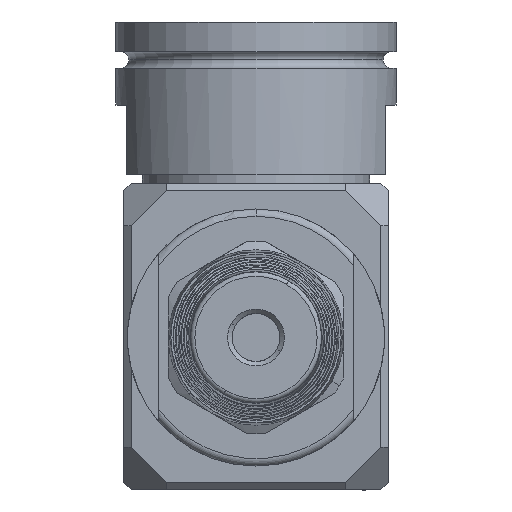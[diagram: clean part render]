
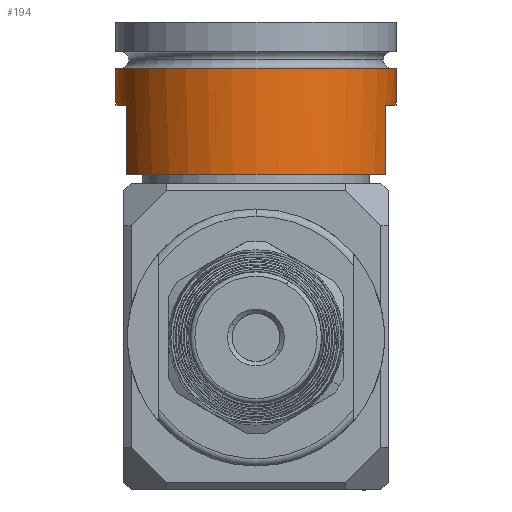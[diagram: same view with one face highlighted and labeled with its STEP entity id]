
A CAD part, front view. The second image highlights one B-rep face of the part: STEP entity #194.
In plain terms, the highlighted cylindrical face has radius 19.291 mm (diameter 38.583 mm), a partial arc.
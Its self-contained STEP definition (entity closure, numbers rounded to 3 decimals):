
#35 = VECTOR ( 'NONE', #1108, 1000. ) ;
#194 = ADVANCED_FACE ( 'NONE', ( #6642 ), #2021, .T. ) ;
#427 = ORIENTED_EDGE ( 'NONE', *, *, #6583, .T. ) ;
#482 = CARTESIAN_POINT ( 'NONE',  ( 17.78, -7.485, -2.972 ) ) ;
#692 = VECTOR ( 'NONE', #3810, 1000. ) ;
#761 = CARTESIAN_POINT ( 'NONE',  ( -19.291, 0., 2.108 ) ) ;
#835 = VERTEX_POINT ( 'NONE', #3883 ) ;
#1087 = VECTOR ( 'NONE', #8584, 1000. ) ;
#1108 = DIRECTION ( 'NONE',  ( 0., 0., -1. ) ) ;
#1285 = DIRECTION ( 'NONE',  ( 0., 0., -1. ) ) ;
#1380 = CARTESIAN_POINT ( 'NONE',  ( 19.291, 0., 8.458 ) ) ;
#1866 = AXIS2_PLACEMENT_3D ( 'NONE', #14951, #7901, #17951 ) ;
#1921 = EDGE_CURVE ( 'NONE', #12781, #5829, #9252, .T. ) ;
#2021 = CYLINDRICAL_SURFACE ( 'NONE', #16669, 19.291 ) ;
#2105 = ORIENTED_EDGE ( 'NONE', *, *, #5935, .T. ) ;
#2148 = EDGE_CURVE ( 'NONE', #9388, #10308, #4163, .T. ) ;
#3218 = AXIS2_PLACEMENT_3D ( 'NONE', #14050, #6616, #13955 ) ;
#3335 = CIRCLE ( 'NONE', #7851, 19.291 ) ;
#3352 = CARTESIAN_POINT ( 'NONE',  ( -17.78, -7.485, -12.497 ) ) ;
#3360 = AXIS2_PLACEMENT_3D ( 'NONE', #8642, #8443, #14191 ) ;
#3810 = DIRECTION ( 'NONE',  ( 0., 0., -1. ) ) ;
#3883 = CARTESIAN_POINT ( 'NONE',  ( -17.78, -7.485, -2.972 ) ) ;
#4163 = LINE ( 'NONE', #5671, #1087 ) ;
#4787 = ORIENTED_EDGE ( 'NONE', *, *, #17417, .F. ) ;
#4880 = CIRCLE ( 'NONE', #1866, 19.291 ) ;
#5013 = DIRECTION ( 'NONE',  ( 0., 0., -1. ) ) ;
#5100 = CARTESIAN_POINT ( 'NONE',  ( 17.78, -7.485, -12.497 ) ) ;
#5320 = VERTEX_POINT ( 'NONE', #11217 ) ;
#5671 = CARTESIAN_POINT ( 'NONE',  ( 17.78, -7.485, -2.972 ) ) ;
#5829 = VERTEX_POINT ( 'NONE', #14673 ) ;
#5935 = EDGE_CURVE ( 'NONE', #17279, #12781, #4880, .T. ) ;
#6583 = EDGE_CURVE ( 'NONE', #835, #7870, #15098, .T. ) ;
#6616 = DIRECTION ( 'NONE',  ( 0., 0., -1. ) ) ;
#6642 = FACE_OUTER_BOUND ( 'NONE', #18429, .T. ) ;
#6660 = ORIENTED_EDGE ( 'NONE', *, *, #1921, .T. ) ;
#7044 = DIRECTION ( 'NONE',  ( 1., 0., 0. ) ) ;
#7119 = VECTOR ( 'NONE', #5013, 1000. ) ;
#7851 = AXIS2_PLACEMENT_3D ( 'NONE', #11275, #1285, #7044 ) ;
#7855 = CARTESIAN_POINT ( 'NONE',  ( -19.291, 0., 8.458 ) ) ;
#7870 = VERTEX_POINT ( 'NONE', #3352 ) ;
#7901 = DIRECTION ( 'NONE',  ( 0., 0., -1. ) ) ;
#7902 = ORIENTED_EDGE ( 'NONE', *, *, #15863, .F. ) ;
#8148 = CARTESIAN_POINT ( 'NONE',  ( -17.78, -7.485, -2.972 ) ) ;
#8189 = CARTESIAN_POINT ( 'NONE',  ( 19.291, 0., 2.108 ) ) ;
#8354 = ORIENTED_EDGE ( 'NONE', *, *, #2148, .F. ) ;
#8443 = DIRECTION ( 'NONE',  ( 0., 0., -1. ) ) ;
#8584 = DIRECTION ( 'NONE',  ( 0., 0., -1. ) ) ;
#8642 = CARTESIAN_POINT ( 'NONE',  ( 0., 0., -2.972 ) ) ;
#9011 = ORIENTED_EDGE ( 'NONE', *, *, #12288, .F. ) ;
#9252 = LINE ( 'NONE', #7855, #7119 ) ;
#9388 = VERTEX_POINT ( 'NONE', #482 ) ;
#9671 = CIRCLE ( 'NONE', #3360, 19.291 ) ;
#10308 = VERTEX_POINT ( 'NONE', #5100 ) ;
#11217 = CARTESIAN_POINT ( 'NONE',  ( 19.291, 0., -2.972 ) ) ;
#11275 = CARTESIAN_POINT ( 'NONE',  ( 0., 0., -2.972 ) ) ;
#12288 = EDGE_CURVE ( 'NONE', #10308, #7870, #13749, .T. ) ;
#12368 = CARTESIAN_POINT ( 'NONE',  ( 0., 0., 8.458 ) ) ;
#12781 = VERTEX_POINT ( 'NONE', #761 ) ;
#13749 = CIRCLE ( 'NONE', #3218, 19.291 ) ;
#13955 = DIRECTION ( 'NONE',  ( 1., 0., 0. ) ) ;
#14014 = LINE ( 'NONE', #1380, #35 ) ;
#14050 = CARTESIAN_POINT ( 'NONE',  ( 0., 0., -12.497 ) ) ;
#14191 = DIRECTION ( 'NONE',  ( -1., 0., 0. ) ) ;
#14673 = CARTESIAN_POINT ( 'NONE',  ( -19.291, 0., -2.972 ) ) ;
#14826 = DIRECTION ( 'NONE',  ( 0., 0., -1. ) ) ;
#14951 = CARTESIAN_POINT ( 'NONE',  ( 0., 0., 2.108 ) ) ;
#15098 = LINE ( 'NONE', #8148, #692 ) ;
#15841 = EDGE_CURVE ( 'NONE', #5320, #9388, #3335, .T. ) ;
#15863 = EDGE_CURVE ( 'NONE', #17279, #5320, #14014, .T. ) ;
#16054 = ORIENTED_EDGE ( 'NONE', *, *, #15841, .F. ) ;
#16669 = AXIS2_PLACEMENT_3D ( 'NONE', #12368, #14826, #18108 ) ;
#17279 = VERTEX_POINT ( 'NONE', #8189 ) ;
#17417 = EDGE_CURVE ( 'NONE', #835, #5829, #9671, .T. ) ;
#17951 = DIRECTION ( 'NONE',  ( 1., 0., 0. ) ) ;
#18108 = DIRECTION ( 'NONE',  ( 1., 0., 0. ) ) ;
#18429 = EDGE_LOOP ( 'NONE', ( #2105, #6660, #4787, #427, #9011, #8354, #16054, #7902 ) ) ;
